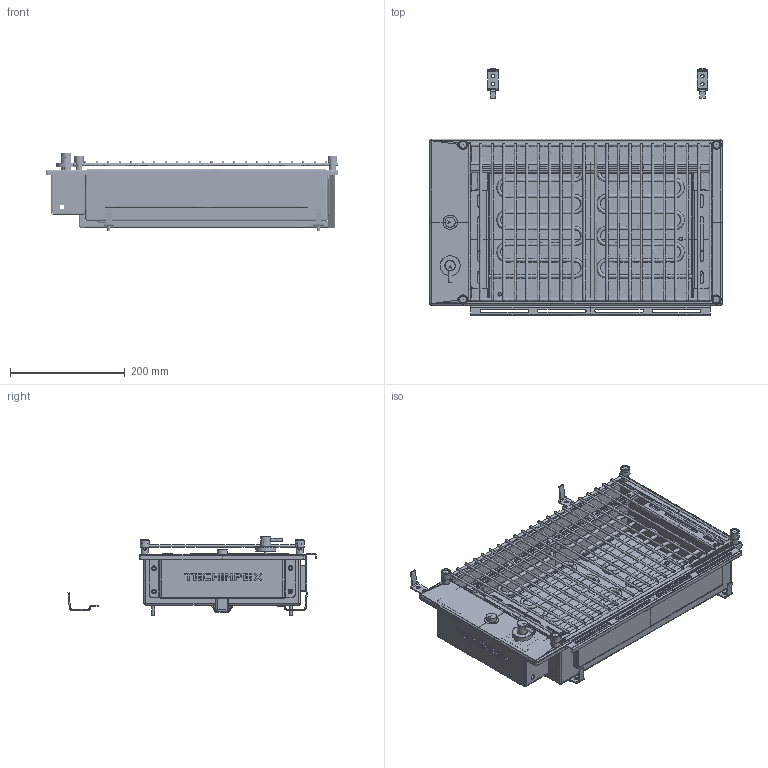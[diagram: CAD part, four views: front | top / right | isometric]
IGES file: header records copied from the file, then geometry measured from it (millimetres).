
Start section:  Alias DesignStudio for Windows version 12.0 IGES version 5.3
Global section: file name: C:\00000LAVORI_IN_CORSO\techimpex\powegrill\powergrill.iges; native system: Alias DesignStudio for Windows V12.0; preprocessor: 12.0; author: admin; organization: Unknown; date: 20080806.101509; units: millimetre
Bounding box: 510 x 432.63 x 137.46 mm (x, y, z)
Surface area: 1313818.9 mm2 (no closed solid volume)
Topology: 0 solids, 0 shells, 1431 faces, 7846 edges, 7495 vertices
Faces by surface type: bspline 1431
